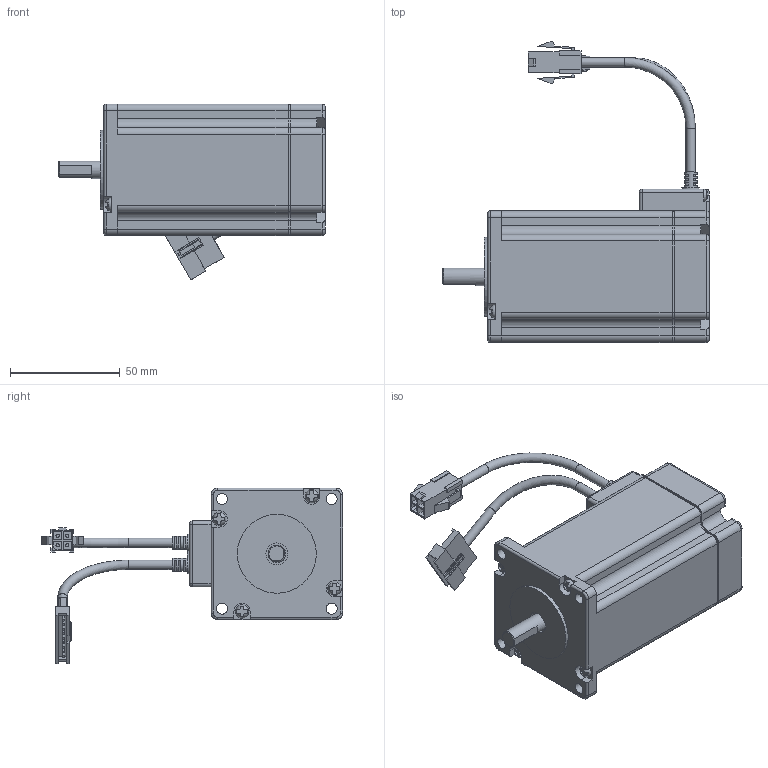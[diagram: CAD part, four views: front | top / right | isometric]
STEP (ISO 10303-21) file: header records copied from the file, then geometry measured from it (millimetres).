
FILE_DESCRIPTION(/* description */ (''),/* implementation_level */ '2;1');
FILE_NAME(/* name */ '\\EMN0D5F01\rp_inventor\RP Mechanical Design\Wiley\Updated Models\eCLM-P603A.stp',/* time_stamp */ '2016-10-27T15:25:48-07:00',/* author */ ('JDB'),/* organization */ ('Parker Hannifin Corp'),/* preprocessor_version */ 'ST-DEVELOPER v15.2',/* originating_system */ 'Autodesk Inventor 2014',/* authorisation */ '');
FILE_SCHEMA (('CONFIG_CONTROL_DESIGN'));
Length unit declared in the file: inch
Products named in the file (1): eCLM-P603A_sw
Bounding box: 121.6 x 137.41 x 80.22 mm (x, y, z)
Volume: 298981.9 mm3; surface area: 54504.1 mm2
Topology: 3 solids, 3 shells, 880 faces, 2295 edges, 1475 vertices
Faces by surface type: plane 592, cylinder 202, cone 34, torus 26, bspline 14, sphere 12
Full cylindrical faces by diameter (mm): 1 x9, 1.5 x4, 1.6 x4, 2.1 x4, 2.3 x2, 2.4 x7, 4 x5, 4.3 x4, 5 x5, 6 x4, 8 x3, 9.2 x1, 10 x2, 17.5 x1, 36 x1
Entity records: 26855 total; most frequent: CARTESIAN_POINT 5439, DIRECTION 4486, ORIENTED_EDGE 4350, EDGE_CURVE 2173, AXIS2_PLACEMENT_3D 1543, VERTEX_POINT 1437, LINE 1400, VECTOR 1400
